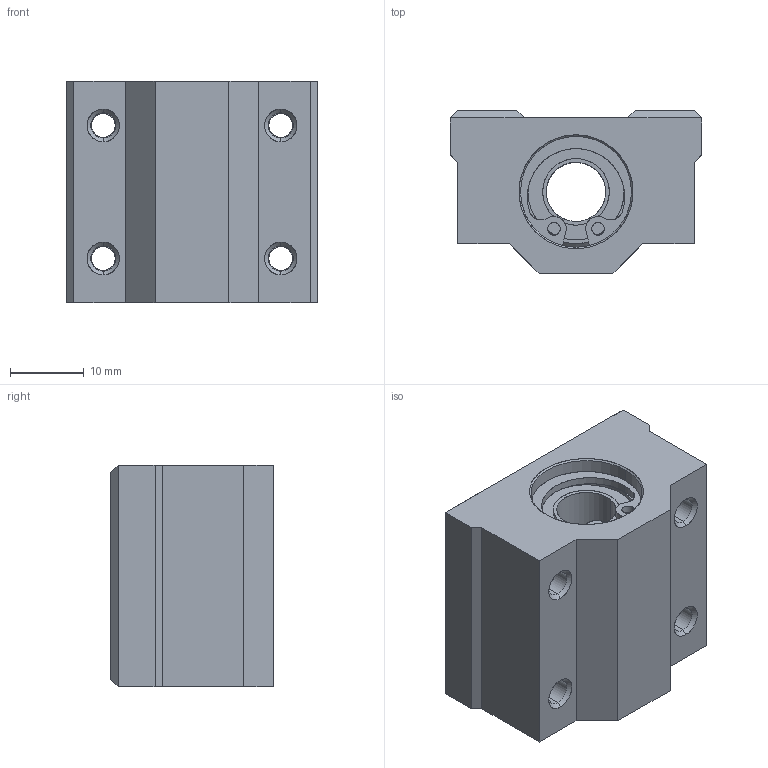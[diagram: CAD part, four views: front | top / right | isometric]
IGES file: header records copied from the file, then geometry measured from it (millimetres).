
Start section: SolidWorks IGES file using analytic representation for surfaces
Global section: file name: D:\SOLIDWORKS PROEKTI\freelance cnc cat\VTORA SERIJA\SC-UU\SC8UU.IGS; native system: SolidWorks 2016; preprocessor: SolidWorks 2016; author: User; date: 170805.185409; units: millimetre
Bounding box: 34 x 22 x 30 mm (x, y, z)
Surface area: 8776.6 mm2 (no closed solid volume)
Topology: 0 solids, 0 shells, 318 faces, 7309 edges, 8925 vertices
Faces by surface type: bspline 211, revolution 107
